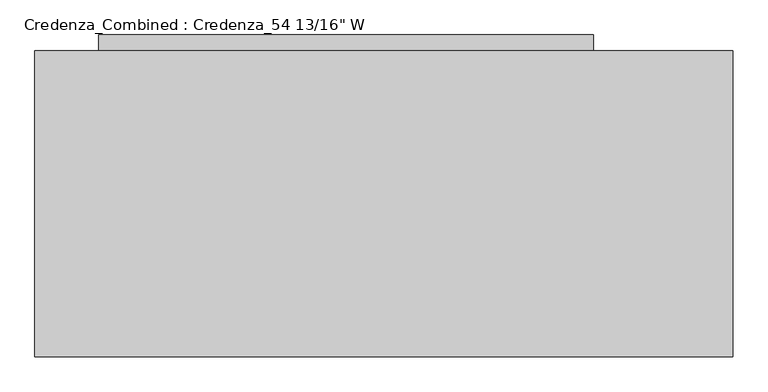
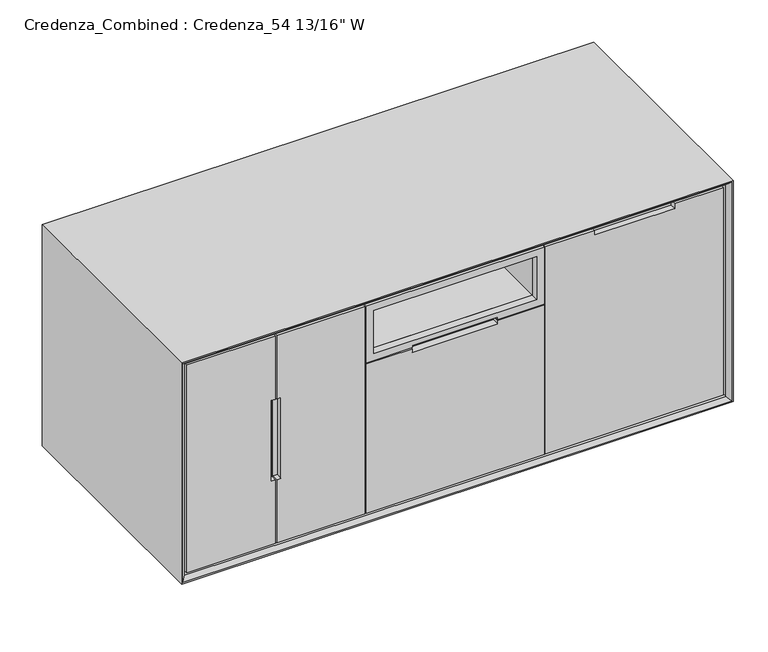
"""IFC4 building model written with IfcOpenShell, lengths in millimetres: furniture geometry."""

from ifc_helpers import new_model, si_unit, frame, origin, origin_with_axes, place, context, project, spatial, polyline, outline, extrude, faceted_brep, source, transform, mapped, element, save


def furniture_d7054f50(model_context):
    return source(origin(), model_context, "Body", "SolidModel", [
        faceted_brep([(1373.1875, 28.575, 659.60625), (923.925, 28.575, 659.60625), (923.925, 9.525, 659.60625), (1046.95625, 9.525, 659.60625), (1046.95625, 25.4, 659.60625), (1250.15625, 25.4, 659.60625), (1250.15625, 9.525, 659.60625), (1373.1875, 9.525, 659.60625), (1373.1875, 28.575, 105.56875), (1373.1875, 9.525, 105.56875), (923.925, 9.525, 105.56875), (923.925, 28.575, 105.56875), (1250.15625, 9.525, 646.90625), (1046.95625, 9.525, 646.90625), (1046.95625, 25.4, 646.90625), (1250.15625, 25.4, 646.90625)], [[[0, 1, 2, 3, 4, 5, 6, 7]], [[8, 9, 10, 11]], [[1, 0, 8, 11]], [[2, 1, 11, 10]], [[10, 9, 7, 6, 12, 13, 3, 2]], [[0, 7, 9, 8]], [[4, 14, 15, 5]], [[14, 4, 3, 13]], [[15, 14, 13, 12]], [[5, 15, 12, 6]]]),
        extrude(outline(polyline([(1373.1875, 609.6), (1373.1875, 28.575), (923.925, 28.575), (923.925, 609.6), (1373.1875, 609.6)])), frame((0.0, 0.0, 156.36875), z_axis=(0.0, 0.0, 1.0), x_axis=(1.0, 0.0, 0.0)), (0.0, 0.0, 1.0), 19.05),
        extrude(outline(polyline([(903.2875, 609.6), (903.2875, 28.575), (488.95, 28.575), (488.95, 609.6), (903.2875, 609.6)]), holes=[polyline([(501.65, 596.9), (501.65, 41.275), (889.0, 41.275), (889.0, 596.9), (501.65, 596.9)])]), frame((0.0, 0.0, 118.26875), z_axis=(0.0, 0.0, 1.0), x_axis=(1.0, 0.0, 0.0)), (0.0, 0.0, 1.0), 360.3625),
        extrude(outline(polyline([(642.14375, 903.2875), (642.14375, 488.95), (524.66875, 488.95), (524.66875, 903.2875), (642.14375, 903.2875)]), holes=[polyline([(640.55625, 901.7), (526.25625, 901.7), (526.25625, 490.5375), (640.55625, 490.5375), (640.55625, 901.7)])]), frame((0.0, 28.575, 0.0), z_axis=(0.0, 1.0, 0.0), x_axis=(0.0, 0.0, 1.0)), (0.0, 0.0, 1.0), 581.025),
        extrude(outline(polyline([(504.03125, 471.4875), (105.56875, 471.4875), (105.56875, 920.75), (504.03125, 920.75), (504.03125, 804.06875), (494.7030946, 804.06875), (494.7030946, 588.16875), (504.03125, 588.16875), (504.03125, 471.4875)])), frame((0.0, 9.525, 0.0), z_axis=(0.0, 1.0, 0.0), x_axis=(0.0, 0.0, 1.0)), (0.0, 0.0, 1.0), 19.05),
        extrude(outline(polyline([(659.60625, 920.75), (659.60625, 471.4875), (507.20625, 471.4875), (507.20625, 588.16875), (513.3594054, 588.16875), (513.3594054, 804.06875), (507.20625, 804.06875), (507.20625, 920.75), (659.60625, 920.75)]), holes=[polyline([(640.55625, 490.5375), (640.55625, 901.7), (526.25625, 901.7), (526.25625, 490.5375), (640.55625, 490.5375)])]), frame((0.0, 9.525, 0.0), z_axis=(0.0, 1.0, 0.0), x_axis=(0.0, 0.0, 1.0)), (0.0, 0.0, 1.0), 19.05),
        extrude(outline(polyline([(1114.425, 609.6), (1114.425, 241.3), (127.0, 241.3), (127.0, 609.6), (1114.425, 609.6)])), origin_with_axes(), (0.0, 0.0, 1.0), 87.3125),
        extrude(outline(polyline([(1114.425, 641.35), (1114.425, 609.6), (127.0, 609.6), (127.0, 641.35), (1114.425, 641.35)])), origin_with_axes(), (0.0, 0.0, 1.0), 647.7),
        extrude(outline(polyline([(665.1625, 1379.5375), (665.1625, 12.7), (100.0125, 12.7), (100.0125, 1379.5375), (665.1625, 1379.5375)]), holes=[polyline([(646.1125, 31.75), (646.1125, 1360.4875), (119.0625, 1360.4875), (119.0625, 31.75), (646.1125, 31.75)])]), frame((0.0, 31.75, 0.0), z_axis=(0.0, 1.0, 0.0), x_axis=(0.0, 0.0, 1.0)), (0.0, 0.0, 1.0), 577.85),
        faceted_brep([(1379.5375, 9.525, 665.1625), (1379.5375, 609.6, 665.1625), (1379.5375, 609.6, 100.0125), (1379.5375, 9.525, 100.0125), (1389.0625, 0.0, 674.6875), (1389.0625, 0.0, 90.4875), (1392.2375, 609.6, 677.8625), (1392.2375, 0.0, 677.8625), (1392.2375, 0.0, 87.3125), (1392.2375, 609.6, 87.3125), (12.7, 609.6, 100.0125), (12.7, 9.525, 100.0125), (3.175, 0.0, 90.4875), (0.0, 0.0, 87.3125), (0.0, 609.6, 87.3125), (12.7, 609.6, 665.1625), (12.7, 9.525, 665.1625), (3.175, 0.0, 674.6875), (0.0, 0.0, 677.8625), (0.0, 609.6, 677.8625)], [[[0, 1, 2, 3]], [[4, 0, 3, 5]], [[6, 7, 8, 9]], [[3, 2, 10, 11]], [[5, 3, 11, 12]], [[9, 8, 13, 14]], [[11, 10, 15, 16]], [[12, 11, 16, 17]], [[14, 13, 18, 19]], [[9, 14, 19, 6], [1, 15, 10, 2]], [[16, 15, 1, 0]], [[17, 16, 0, 4]], [[7, 18, 13, 8], [5, 12, 17, 4]], [[19, 18, 7, 6]]]),
        faceted_brep([(242.09375, 28.575, 659.60625), (19.05, 28.575, 659.60625), (19.05, 9.525, 659.60625), (242.09375, 9.525, 659.60625), (242.09375, 28.575, 105.56875), (242.09375, 9.525, 105.56875), (19.05, 9.525, 105.56875), (19.05, 28.575, 105.56875), (230.98125, 25.4, 490.5375), (230.98125, 25.4, 274.6375), (242.09375, 25.4, 274.6375), (242.09375, 25.4, 490.5375), (242.09375, 9.525, 274.6375), (230.98125, 9.525, 274.6375), (230.98125, 9.525, 490.5375), (242.09375, 9.525, 490.5375)], [[[0, 1, 2, 3]], [[4, 5, 6, 7]], [[1, 0, 4, 7]], [[2, 1, 7, 6]], [[8, 9, 10, 11]], [[3, 2, 6, 5, 12, 13, 14, 15]], [[0, 3, 15, 11, 10, 12, 5, 4]], [[14, 8, 11, 15]], [[9, 8, 14, 13]], [[9, 13, 12, 10]]]),
        faceted_brep([(245.26875, 9.525, 659.60625), (468.3125, 9.525, 659.60625), (468.3125, 28.575, 659.60625), (245.26875, 28.575, 659.60625), (245.26875, 9.525, 105.56875), (245.26875, 28.575, 105.56875), (468.3125, 28.575, 105.56875), (468.3125, 9.525, 105.56875), (245.26875, 9.525, 490.5375), (256.38125, 9.525, 490.5375), (256.38125, 9.525, 274.6375), (245.26875, 9.525, 274.6375), (256.38125, 25.4, 274.6375), (256.38125, 25.4, 490.5375), (245.26875, 25.4, 490.5375), (245.26875, 25.4, 274.6375)], [[[0, 1, 2, 3]], [[4, 5, 6, 7]], [[1, 0, 8, 9, 10, 11, 4, 7]], [[2, 1, 7, 6]], [[12, 13, 14, 15]], [[3, 2, 6, 5]], [[0, 3, 5, 4, 11, 15, 14, 8]], [[13, 9, 8, 14]], [[10, 12, 15, 11]], [[13, 12, 10, 9]]]),
        extrude(outline(polyline([(468.3125, 609.6), (468.3125, 28.575), (19.05, 28.575), (19.05, 609.6), (468.3125, 609.6)])), frame((0.0, 0.0, 382.5875), z_axis=(0.0, 0.0, 1.0), x_axis=(1.0, 0.0, 0.0)), (0.0, 0.0, 1.0), 19.05),
    ])


if __name__ == "__main__":
    model = new_model("IFC4")
    model_context = context("Model", 3, world=origin())
    ifc_project = project(units=[si_unit("LENGTHUNIT", "METRE", prefix="MILLI")], contexts=[model_context])
    site = spatial("IfcSite", under=ifc_project)
    building = spatial("IfcBuilding", under=site)
    placement = place(None, origin())
    furniture_shape = furniture_d7054f50(model_context)
    element("IfcFurniture", 1, ObjectType="Credenza_Combined : Credenza_54 13/16\" W", at=placement, inside=building, context=model_context, shape_type="MappedRepresentation", body=[
        mapped(furniture_shape, transform((0.0, 0.0, 0.0), x_axis=(1.0, 0.0, 0.0), y_axis=(0.0, 1.0, 0.0), z_axis=(0.0, 0.0, 1.0))),
    ])
    save(model, "model.ifc")
